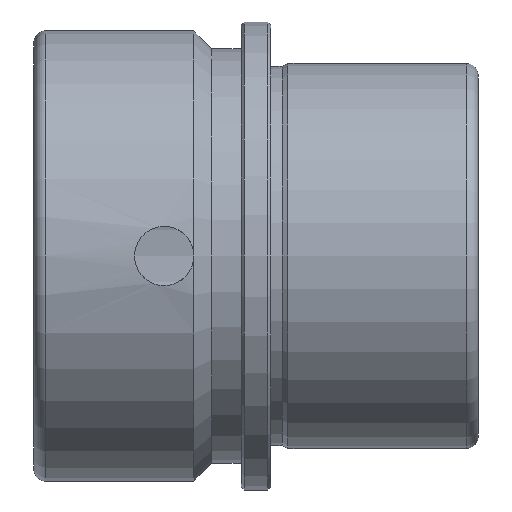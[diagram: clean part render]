
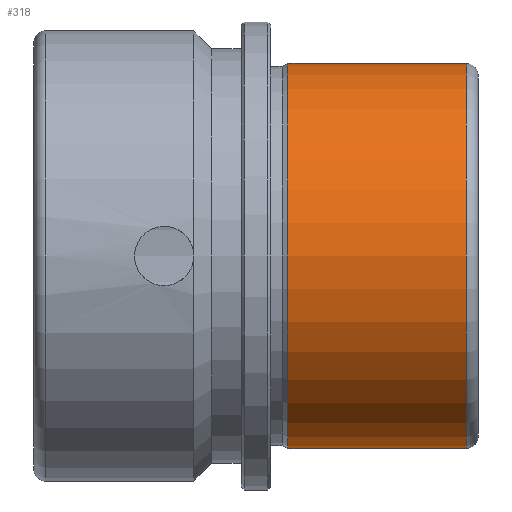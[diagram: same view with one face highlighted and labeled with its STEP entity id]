
A CAD part, front view. The second image highlights one B-rep face of the part: STEP entity #318.
In plain terms, the highlighted cylindrical face has radius 32.5 mm (diameter 65 mm), a full revolution.
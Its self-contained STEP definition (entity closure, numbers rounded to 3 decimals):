
#45=CIRCLE('',#372,32.5);
#46=CIRCLE('',#373,32.5);
#47=CIRCLE('',#375,32.5);
#65=FACE_OUTER_BOUND('',#86,.T.);
#86=EDGE_LOOP('',(#245,#246,#247,#248,#249));
#102=LINE('',#622,#114);
#114=VECTOR('',#453,32.5);
#142=VERTEX_POINT('',#615);
#143=VERTEX_POINT('',#617);
#144=VERTEX_POINT('',#621);
#177=EDGE_CURVE('',#142,#143,#45,.T.);
#178=EDGE_CURVE('',#143,#142,#46,.T.);
#179=EDGE_CURVE('',#143,#144,#102,.T.);
#180=EDGE_CURVE('',#144,#144,#47,.T.);
#245=ORIENTED_EDGE('',*,*,#178,.F.);
#246=ORIENTED_EDGE('',*,*,#179,.T.);
#247=ORIENTED_EDGE('',*,*,#180,.T.);
#248=ORIENTED_EDGE('',*,*,#179,.F.);
#249=ORIENTED_EDGE('',*,*,#177,.F.);
#285=CYLINDRICAL_SURFACE('',#374,32.5);
#318=ADVANCED_FACE('',(#65),#285,.T.);
#372=AXIS2_PLACEMENT_3D('',#618,#447,#448);
#373=AXIS2_PLACEMENT_3D('',#619,#449,#450);
#374=AXIS2_PLACEMENT_3D('',#620,#451,#452);
#375=AXIS2_PLACEMENT_3D('',#623,#454,#455);
#447=DIRECTION('center_axis',(1.,0.,0.));
#448=DIRECTION('ref_axis',(0.,-1.,0.));
#449=DIRECTION('center_axis',(1.,0.,0.));
#450=DIRECTION('ref_axis',(0.,-1.,0.));
#451=DIRECTION('center_axis',(1.,0.,0.));
#452=DIRECTION('ref_axis',(0.,1.,0.));
#453=DIRECTION('',(-1.,0.,0.));
#454=DIRECTION('center_axis',(1.,0.,0.));
#455=DIRECTION('ref_axis',(0.,0.,-1.));
#615=CARTESIAN_POINT('',(73.,0.,32.5));
#617=CARTESIAN_POINT('',(73.,-32.5,0.));
#618=CARTESIAN_POINT('Origin',(73.,0.,0.));
#619=CARTESIAN_POINT('Origin',(73.,0.,0.));
#620=CARTESIAN_POINT('Origin',(58.95,0.,0.));
#621=CARTESIAN_POINT('',(42.9,-32.5,0.));
#622=CARTESIAN_POINT('',(58.95,-32.5,0.));
#623=CARTESIAN_POINT('Origin',(42.9,0.,0.));
